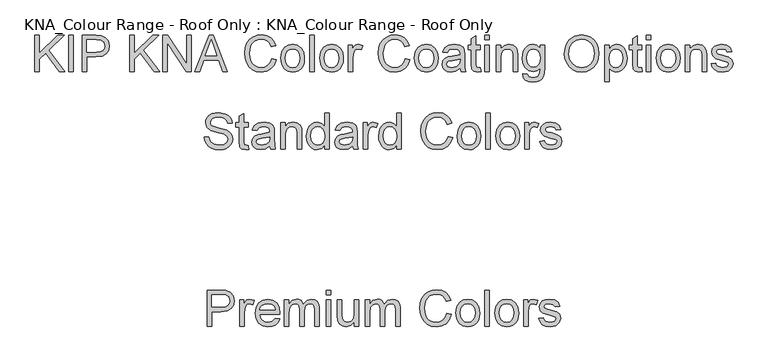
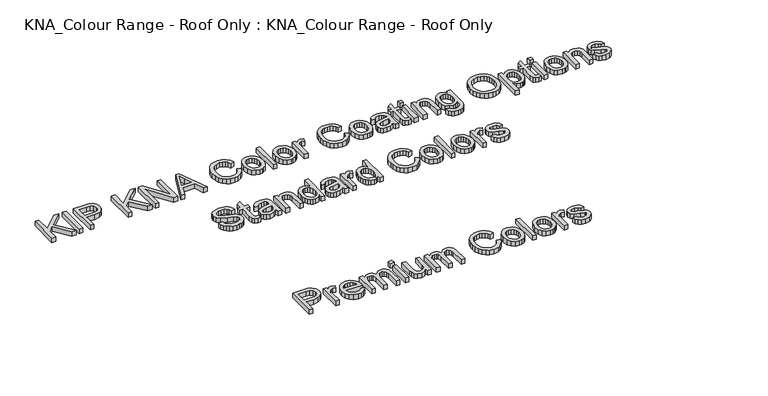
"""IFC4 building model written with IfcOpenShell, lengths in millimetres: proxy geometry, KNA_Colour Range - Roof Only : KNA_Colour Range - Roof Only."""

from ifc_helpers import new_model, si_unit, origin, origin_with_axes, place, context, project, spatial, polyline, outline, extrude, source, transform, mapped, element, save


def kna_colour_range_roof_only_kna_colour_range_roof_only_6b243e54(model_context):
    return source(origin(), model_context, "Body", "SweptSolid", [
        extrude(outline(polyline([(-733.4095456, 1513.480545), (-733.4095456, 1664.1650102), (-677.5650587, 1664.1650102), (-655.0506806, 1662.7302704), (-636.7485514, 1655.6853302), (-624.884357, 1641.1172032), (-620.3961967, 1620.5709938), (-623.4266246, 1602.8114905), (-632.5179084, 1588.0134372), (-649.5186551, 1578.0254411), (-676.2774717, 1574.696109), (-714.5739874, 1574.696109), (-714.5739874, 1513.480545), (-733.4095456, 1513.480545)]), holes=[polyline([(-714.5739874, 1593.5316672), (-675.1738257, 1593.5316672), (-658.4719832, 1595.2607125), (-647.4355233, 1600.4478487), (-641.2826969, 1608.7711788), (-639.2317548, 1619.9088062), (-644.0694031, 1635.5070028), (-656.779726, 1644.0418651), (-675.6152841, 1645.3294521), (-714.5739874, 1645.3294521), (-714.5739874, 1593.5316672)])]), origin_with_axes(), (0.0, 0.0, 1.0), 25.0),
        extrude(outline(polyline([(-596.851749, 1513.480545), (-596.851749, 1624.1394492), (-580.3706356, 1624.1394492), (-580.3706356, 1607.7687004), (-568.6719881, 1622.8518622), (-556.8997643, 1626.4938939), (-537.9906297, 1620.6813584), (-544.2814119, 1603.7955748), (-557.5251637, 1607.6583358), (-568.1753475, 1603.9427276), (-574.9627703, 1593.6420318), (-578.0161908, 1571.6426884), (-578.0161908, 1513.480545), (-596.851749, 1513.480545)])), origin_with_axes(), (0.0, 0.0, 1.0), 25.0),
        extrude(outline(polyline([(-448.7424577, 1546.4427718), (-430.2747816, 1544.088327), (-436.9288471, 1530.1731905), (-447.5468412, 1519.7713271), (-461.8896405, 1513.287407), (-479.7181217, 1511.1261002), (-501.8186326, 1514.855504), (-518.8239778, 1526.0437151), (-529.6672996, 1543.9641668), (-533.2817402, 1567.8902921), (-529.6305114, 1592.6211592), (-518.676825, 1611.1164265), (-501.901406, 1622.6495271), (-480.7849795, 1626.4938939), (-460.326142, 1622.6587241), (-443.9783859, 1611.1532147), (-433.2592242, 1592.6947356), (-429.6861704, 1568.0006567), (-429.796535, 1562.9238852), (-514.4461821, 1562.9238852), (-511.1858279, 1548.8248077), (-503.6120573, 1538.4597325), (-492.6813635, 1532.0861769), (-479.3502397, 1529.9616584), (-460.8825636, 1533.8979957), (-448.7424577, 1546.4427718)]), holes=[polyline([(-514.4461821, 1581.7594433), (-448.5217285, 1581.7594433), (-451.0693113, 1591.7106513), (-456.0633094, 1598.8291679), (-467.044587, 1605.4510438), (-480.8585559, 1607.6583358), (-493.5550833, 1605.8971007), (-504.0535157, 1600.6133956), (-511.3513748, 1592.3774374), (-514.4461821, 1581.7594433)])]), origin_with_axes(), (0.0, 0.0, 1.0), 25.0),
        extrude(outline(polyline([(-410.8506122, 1513.480545), (-410.8506122, 1624.1394492), (-392.0150541, 1624.1394492), (-392.0150541, 1605.9292904), (-379.0656078, 1620.8469053), (-360.6347199, 1626.4938939), (-350.1592801, 1625.0545556), (-341.7623735, 1620.7365407), (-331.3881013, 1604.6049152), (-316.6912155, 1621.0216492), (-298.1315689, 1626.4938939), (-283.9727106, 1624.2176241), (-273.5018693, 1617.3888145), (-267.0317447, 1605.8235243), (-264.8750365, 1589.3378124), (-264.8750365, 1513.480545), (-283.7105947, 1513.480545), (-283.7105947, 1581.2444085), (-285.4580342, 1596.9713638), (-291.7856045, 1604.7152798), (-302.5461528, 1607.6583358), (-312.7502797, 1605.7729405), (-321.0690113, 1600.1167549), (-326.6010368, 1590.3035026), (-328.4450453, 1575.9469078), (-328.4450453, 1513.480545), (-347.2806034, 1513.480545), (-347.2806034, 1583.3413359), (-351.6400051, 1601.5882828), (-357.3927598, 1606.1408225), (-365.9322206, 1607.6583358), (-379.8749482, 1603.6116338), (-389.1455745, 1591.7658336), (-392.0150541, 1569.2882437), (-392.0150541, 1513.480545), (-410.8506122, 1513.480545)])), origin_with_axes(), (0.0, 0.0, 1.0), 25.0),
        extrude(outline(polyline([(-236.6216993, 1513.480545), (-236.6216993, 1624.1394492), (-217.7861411, 1624.1394492), (-217.7861411, 1513.480545), (-236.6216993, 1513.480545)])), origin_with_axes(), (0.0, 0.0, 1.0), 25.0),
        extrude(outline(polyline([(-236.6216993, 1645.3294521), (-236.6216993, 1664.1650102), (-217.7861411, 1664.1650102), (-217.7861411, 1645.3294521), (-236.6216993, 1645.3294521)])), origin_with_axes(), (0.0, 0.0, 1.0), 25.0),
        extrude(outline(polyline([(-118.8994608, 1513.480545), (-118.8994608, 1532.5000442), (-133.6515288, 1516.4695862), (-152.8917572, 1511.1261002), (-170.6052753, 1514.8784966), (-182.8189575, 1524.2962757), (-188.4291579, 1538.1654269), (-189.5328039, 1555.6766098), (-189.5328039, 1624.1394492), (-170.6972458, 1624.1394492), (-170.6972458, 1564.5425659), (-169.5568116, 1545.3391258), (-162.1072012, 1534.0635426), (-148.0725031, 1529.9616584), (-132.3455478, 1534.1555131), (-121.9528814, 1545.5782491), (-118.8994608, 1566.5659169), (-118.8994608, 1624.1394492), (-100.0639027, 1624.1394492), (-100.0639027, 1513.480545), (-118.8994608, 1513.480545)])), origin_with_axes(), (0.0, 0.0, 1.0), 25.0),
        extrude(outline(polyline([(-74.1650102, 1513.480545), (-74.1650102, 1624.1394492), (-55.3294521, 1624.1394492), (-55.3294521, 1605.9292904), (-42.3800058, 1620.8469053), (-23.9491179, 1626.4938939), (-13.4736781, 1625.0545556), (-5.0767715, 1620.7365407), (5.2975007, 1604.6049152), (19.9943864, 1621.0216492), (38.5540331, 1626.4938939), (52.7128914, 1624.2176241), (63.1837327, 1617.3888145), (69.6538573, 1605.8235243), (71.8105655, 1589.3378124), (71.8105655, 1513.480545), (52.9750073, 1513.480545), (52.9750073, 1581.2444085), (51.2275678, 1596.9713638), (44.8999975, 1604.7152798), (34.1394492, 1607.6583358), (23.9353223, 1605.7729405), (15.6165907, 1600.1167549), (10.0845652, 1590.3035026), (8.2405567, 1575.9469078), (8.2405567, 1513.480545), (-10.5950015, 1513.480545), (-10.5950015, 1583.3413359), (-14.9544031, 1601.5882828), (-20.7071578, 1606.1408225), (-29.2466186, 1607.6583358), (-43.1893462, 1603.6116338), (-52.4599725, 1591.7658336), (-55.3294521, 1569.2882437), (-55.3294521, 1513.480545), (-74.1650102, 1513.480545)])), origin_with_axes(), (0.0, 0.0, 1.0), 25.0),
        extrude(outline(polyline([(267.2294813, 1567.0441635), (286.0650394, 1562.1881212), (277.3738273, 1540.2393616), (263.7346023, 1524.2043052), (245.8187492, 1514.3956515), (224.2976525, 1511.1261002), (202.4500605, 1513.6001067), (185.0998259, 1521.0221259), (171.8008917, 1533.1346406), (162.1072012, 1549.6801333), (156.1888996, 1569.1318938), (154.2161324, 1589.9632118), (156.446417, 1611.934964), (163.1372708, 1630.9084779), (173.9392058, 1646.2813467), (188.5027343, 1657.4511638), (205.774794, 1664.2523822), (224.7023227, 1666.519455), (245.3542982, 1663.5855961), (262.4286213, 1654.7840194), (275.3918631, 1640.6573507), (283.7105947, 1621.7482162), (264.8750365, 1617.2600558), (258.3451311, 1630.9958498), (249.4239927, 1640.4182274), (238.0012568, 1645.8674795), (223.9665587, 1647.6838968), (207.7889479, 1645.6697429), (194.4992108, 1639.6272811), (184.4146457, 1630.191108), (177.8525506, 1617.9958198), (173.0516905, 1590.0), (174.4726347, 1572.5991816), (178.7354674, 1557.552808), (186.0011368, 1545.4356948), (196.4305913, 1536.8226576), (208.9339806, 1531.6769082), (222.4214543, 1529.9616584), (238.1438111, 1532.2977091), (251.2450086, 1539.3058611), (261.1364358, 1550.912538), (267.2294813, 1567.0441635)])), origin_with_axes(), (0.0, 0.0, 1.0), 25.0),
        extrude(outline(polyline([(304.9005976, 1568.8099971), (308.9748907, 1595.4906388), (321.19777, 1614.2434235), (336.2993259, 1623.4312763), (354.380726, 1626.4938939), (374.1681788, 1622.7644902), (389.973309, 1611.576279), (400.3337857, 1593.8121772), (403.7872779, 1570.3551015), (402.2605676, 1551.3264053), (397.6804368, 1536.8410517), (390.1802426, 1525.9931314), (379.8933423, 1517.8767348), (367.6750616, 1512.8137589), (354.380726, 1511.1261002), (334.3541498, 1514.8417084), (318.5674137, 1525.9885328), (308.3173016, 1544.1251152), (304.9005976, 1568.8099971)]), holes=[polyline([(323.7361558, 1568.8467853), (325.9158566, 1551.8000533), (332.454959, 1539.655349), (342.2958024, 1532.385081), (354.380726, 1529.9616584), (366.4104672, 1532.3988766), (376.2329165, 1539.7105313), (382.7720189, 1552.016184), (384.9517198, 1569.4353965), (382.7582234, 1585.9854877), (376.1777342, 1597.9646452), (366.3414893, 1605.2349131), (354.380726, 1607.6583358), (342.2958024, 1605.2441102), (332.454959, 1598.0014334), (325.9158566, 1585.8843202), (323.7361558, 1568.8467853)])]), origin_with_axes(), (0.0, 0.0, 1.0), 25.0),
        extrude(outline(polyline([(424.9772808, 1513.480545), (424.9772808, 1664.1650102), (443.812839, 1664.1650102), (443.812839, 1513.480545), (424.9772808, 1513.480545)])), origin_with_axes(), (0.0, 0.0, 1.0), 25.0),
        extrude(outline(polyline([(467.3572867, 1568.8099971), (471.4315798, 1595.4906388), (483.6544591, 1614.2434235), (498.756015, 1623.4312763), (516.837415, 1626.4938939), (536.6248678, 1622.7644902), (552.4299981, 1611.576279), (562.7904747, 1593.8121772), (566.243967, 1570.3551015), (564.7172567, 1551.3264053), (560.1371259, 1536.8410517), (552.6369317, 1525.9931314), (542.3500314, 1517.8767348), (530.1317506, 1512.8137589), (516.837415, 1511.1261002), (496.8108389, 1514.8417084), (481.0241028, 1525.9885328), (470.7739907, 1544.1251152), (467.3572867, 1568.8099971)]), holes=[polyline([(486.1928448, 1568.8467853), (488.3725456, 1551.8000533), (494.9116481, 1539.655349), (504.7524915, 1532.385081), (516.837415, 1529.9616584), (528.8671563, 1532.3988766), (538.6896055, 1539.7105313), (545.228708, 1552.016184), (547.4084088, 1569.4353965), (545.2149124, 1585.9854877), (538.6344232, 1597.9646452), (528.7981784, 1605.2349131), (516.837415, 1607.6583358), (504.7524915, 1605.2441102), (494.9116481, 1598.0014334), (488.3725456, 1585.8843202), (486.1928448, 1568.8467853)])]), origin_with_axes(), (0.0, 0.0, 1.0), 25.0),
        extrude(outline(polyline([(587.4339699, 1513.480545), (587.4339699, 1624.1394492), (603.9150833, 1624.1394492), (603.9150833, 1607.7687004), (615.6137307, 1622.8518622), (627.3859546, 1626.4938939), (646.2950891, 1620.6813584), (640.004307, 1603.7955748), (626.7605552, 1607.6583358), (616.1103714, 1603.9427276), (609.3229486, 1593.6420318), (606.2695281, 1571.6426884), (606.2695281, 1513.480545), (587.4339699, 1513.480545)])), origin_with_axes(), (0.0, 0.0, 1.0), 25.0),
        extrude(outline(polyline([(651.0039787, 1546.4427718), (669.8395368, 1548.7972165), (672.8101839, 1540.7406008), (678.5583401, 1534.8177007), (698.5343324, 1529.9616584), (717.7377726, 1534.4130305), (723.9917665, 1544.8608792), (722.419071, 1549.6617392), (717.7009844, 1553.3221651), (698.3136032, 1558.6932422), (669.9499014, 1567.9086862), (657.5706723, 1578.6692345), (653.3584234, 1593.8627609), (656.7429378, 1607.8974591), (665.9767759, 1618.6212192), (677.9513348, 1624.1946315), (694.1565367, 1626.4938939), (717.075585, 1622.7966799), (731.643712, 1612.7902896), (738.1184351, 1595.8861119), (719.282877, 1593.5316672), (712.2011486, 1603.9243335), (695.6280647, 1607.6583358), (677.6018469, 1604.0898804), (672.1939816, 1595.7757473), (674.4380618, 1590.2943056), (681.4646079, 1586.1372391), (697.6882039, 1582.1273253), (725.3345358, 1573.2613692), (738.1736174, 1563.2181908), (742.8273247, 1546.847442), (737.364277, 1528.8212242), (721.6005335, 1515.7430193), (698.276815, 1511.1261002), (679.284907, 1513.3517863), (665.4249529, 1520.0288445), (656.1727207, 1531.0836985), (651.0039787, 1546.4427718)])), origin_with_axes(), (0.0, 0.0, 1.0), 25.0),
        extrude(outline(polyline([(-745.1817694, 2305.2783299), (-726.3462113, 2305.2783299), (-720.2761584, 2286.4243777), (-705.450514, 2274.505001), (-682.8625594, 2269.9616584), (-663.1808727, 2273.401355), (-650.4705498, 2282.8559223), (-646.2950891, 2295.4926689), (-649.4220861, 2307.2464986), (-662.2243795, 2315.799755), (-689.6499823, 2322.991848), (-719.1725124, 2332.2808684), (-735.1937733, 2346.2971724), (-740.4728799, 2365.0223659), (-738.8404035, 2376.0542273), (-733.9429745, 2386.3411276), (-725.9093514, 2395.0599308), (-714.868293, 2401.3875012), (-686.9460496, 2406.519455), (-657.147608, 2401.1483779), (-645.724872, 2394.5173049), (-637.2819802, 2385.3662403), (-631.9384943, 2374.2654011), (-629.8139757, 2361.7850044), (-648.6495339, 2361.7850044), (-652.1076247, 2373.0237993), (-659.3181118, 2381.1355973), (-670.5844979, 2386.046822), (-686.2102856, 2387.6838968), (-702.2039553, 2386.0652161), (-713.1760358, 2381.2091737), (-719.5220003, 2374.063066), (-721.6373217, 2365.5741889), (-720.1382026, 2358.3361107), (-715.6408452, 2352.5143781), (-684.8859104, 2341.992953), (-651.5558017, 2332.5383858), (-640.8182459, 2325.7049777), (-633.3272488, 2317.271283), (-628.9264604, 2307.329272), (-627.459531, 2295.9709154), (-629.1471896, 2284.35964), (-634.2101656, 2273.4381432), (-642.4415252, 2264.0387583), (-653.6343349, 2256.9938181), (-667.0942174, 2252.5930297), (-682.1267955, 2251.1261002), (-700.580676, 2252.7079928), (-715.7696039, 2257.4536706), (-727.868323, 2265.3815275), (-737.0515773, 2276.5099579), (-742.9468863, 2290.0664094), (-745.1817694, 2305.2783299)])), origin_with_axes(), (0.0, 0.0, 1.0), 25.0),
        extrude(outline(polyline([(-561.5350774, 2269.1891062), (-559.1806327, 2252.928722), (-573.2705131, 2251.1261002), (-589.0526507, 2254.2530972), (-596.9253254, 2262.4568657), (-599.2061937, 2283.8308096), (-599.2061937, 2345.303891), (-613.3328624, 2345.303891), (-613.3328624, 2364.1394492), (-599.2061937, 2364.1394492), (-599.2061937, 2391.031623), (-580.3706356, 2402.1048711), (-580.3706356, 2364.1394492), (-561.5350774, 2364.1394492), (-561.5350774, 2345.303891), (-580.3706356, 2345.303891), (-580.3706356, 2284.3826326), (-579.3773542, 2274.6705479), (-576.1583867, 2271.2308513), (-569.7388459, 2269.9616584), (-561.5350774, 2269.1891062)])), origin_with_axes(), (0.0, 0.0, 1.0), 25.0),
        extrude(outline(polyline([(-472.0661762, 2267.6072136), (-490.3315173, 2254.8417084), (-510.5098447, 2251.1261002), (-526.2505956, 2253.3609834), (-537.861871, 2260.0656327), (-545.0217744, 2270.2467669), (-547.4084088, 2282.9111046), (-543.8031653, 2297.8103254), (-534.3302039, 2308.6260561), (-521.1416344, 2314.8064736), (-504.844462, 2317.639165), (-472.1765408, 2324.1138881), (-472.0661762, 2328.3077428), (-473.3629602, 2336.7138464), (-477.2533123, 2342.2136822), (-485.9537215, 2346.2971724), (-498.0754333, 2347.6583358), (-517.1317206, 2344.0346981), (-526.2184059, 2331.1772224), (-545.0539641, 2333.5316672), (-536.9053779, 2351.9257669), (-520.4978409, 2362.7047094), (-495.6474121, 2366.4938939), (-472.8203343, 2363.1461678), (-459.9260704, 2354.7400642), (-454.150323, 2341.9561648), (-453.2306181, 2325.4750515), (-453.2306181, 2302.0409684), (-452.2741249, 2269.3178649), (-448.5217285, 2253.480545), (-467.3572867, 2253.480545), (-472.0661762, 2267.6072136)]), holes=[polyline([(-472.0661762, 2305.2783299), (-502.453229, 2299.5025826), (-518.6584309, 2296.449162), (-525.9976767, 2291.4827551), (-528.5728507, 2284.2354798), (-522.9626502, 2274.0451485), (-506.499931, 2269.9616584), (-487.4436436, 2274.4682128), (-475.156385, 2285.375914), (-472.1765408, 2299.944041), (-472.0661762, 2305.2783299)])]), origin_with_axes(), (0.0, 0.0, 1.0), 25.0),
        extrude(outline(polyline([(-427.3317256, 2253.480545), (-427.3317256, 2364.1394492), (-408.4961674, 2364.1394492), (-408.4961674, 2348.6884054), (-394.0935873, 2362.0425218), (-374.4302947, 2366.4938939), (-356.6432002, 2362.9070445), (-344.5030944, 2353.4892654), (-338.8561058, 2339.6385083), (-337.8628244, 2321.4283495), (-337.8628244, 2253.480545), (-356.6983825, 2253.480545), (-356.6983825, 2318.8899637), (-358.8688863, 2335.5550181), (-366.5392259, 2344.3657919), (-379.470278, 2347.6583358), (-390.5021394, 2345.8097287), (-399.9061229, 2340.2639077), (-406.3486563, 2329.5493446), (-408.4961674, 2312.1945114), (-408.4961674, 2253.480545), (-427.3317256, 2253.480545)])), origin_with_axes(), (0.0, 0.0, 1.0), 25.0),
        extrude(outline(polyline([(-243.6850336, 2253.480545), (-243.6850336, 2271.2492454), (-256.1470362, 2256.1568865), (-273.3731106, 2251.1261002), (-285.5500047, 2252.9471161), (-296.6968291, 2258.4101637), (-306.1330023, 2267.1335655), (-313.1779425, 2278.735644), (-317.5649353, 2292.7473495), (-319.0272662, 2308.6996325), (-313.637795, 2338.6820151), (-306.9055545, 2350.5738006), (-297.4877754, 2359.320195), (-286.0972291, 2364.7004692), (-273.446687, 2366.4938939), (-256.0826568, 2361.3619401), (-243.6850336, 2348.0262178), (-243.6850336, 2404.1650102), (-224.8494755, 2404.1650102), (-224.8494755, 2253.480545), (-243.6850336, 2253.480545)]), holes=[polyline([(-300.1917081, 2308.7732089), (-298.0671895, 2291.735674), (-291.693634, 2279.6185608), (-282.4322047, 2272.375884), (-271.6440652, 2269.9616584), (-260.8605243, 2272.2655194), (-251.8336198, 2279.1771024), (-245.7221802, 2290.825166), (-243.6850336, 2307.3384691), (-245.7589684, 2325.392278), (-251.9807726, 2337.9094629), (-261.2376033, 2345.2211176), (-272.4166174, 2347.6583358), (-283.3151215, 2345.3176866), (-292.245457, 2338.295739), (-298.2051453, 2326.2338081), (-300.1917081, 2308.7732089)])]), origin_with_axes(), (0.0, 0.0, 1.0), 25.0),
        extrude(outline(polyline([(-125.9627951, 2267.6072136), (-144.2281362, 2254.8417084), (-164.4064636, 2251.1261002), (-180.1472145, 2253.3609834), (-191.75849, 2260.0656327), (-198.9183933, 2270.2467669), (-201.3050278, 2282.9111046), (-197.6997842, 2297.8103254), (-188.2268228, 2308.6260561), (-175.0382533, 2314.8064736), (-158.7410809, 2317.639165), (-126.0731597, 2324.1138881), (-125.9627951, 2328.3077428), (-127.2595792, 2336.7138464), (-131.1499313, 2342.2136822), (-139.8503405, 2346.2971724), (-151.9720522, 2347.6583358), (-171.0283396, 2344.0346981), (-180.1150248, 2331.1772224), (-198.950583, 2333.5316672), (-190.8019968, 2351.9257669), (-174.3944598, 2362.7047094), (-149.544031, 2366.4938939), (-126.7169532, 2363.1461678), (-113.8226893, 2354.7400642), (-108.046942, 2341.9561648), (-107.127237, 2325.4750515), (-107.127237, 2302.0409684), (-106.1707438, 2269.3178649), (-102.4183475, 2253.480545), (-121.2539056, 2253.480545), (-125.9627951, 2267.6072136)]), holes=[polyline([(-125.9627951, 2305.2783299), (-156.349848, 2299.5025826), (-172.5550498, 2296.449162), (-179.8942956, 2291.4827551), (-182.4694696, 2284.2354798), (-176.8592692, 2274.0451485), (-160.3965499, 2269.9616584), (-141.3402625, 2274.4682128), (-129.0530039, 2285.375914), (-126.0731597, 2299.944041), (-125.9627951, 2305.2783299)])]), origin_with_axes(), (0.0, 0.0, 1.0), 25.0),
        extrude(outline(polyline([(-81.2283445, 2253.480545), (-81.2283445, 2364.1394492), (-64.7472312, 2364.1394492), (-64.7472312, 2347.7687004), (-53.0485837, 2362.8518622), (-41.2763599, 2366.4938939), (-22.3672253, 2360.6813584), (-28.6580074, 2343.7955748), (-41.9017593, 2347.6583358), (-52.551943, 2343.9427276), (-59.3393658, 2333.6420318), (-62.3927864, 2311.6426884), (-62.3927864, 2253.480545), (-81.2283445, 2253.480545)])), origin_with_axes(), (0.0, 0.0, 1.0), 25.0),
        extrude(outline(polyline([(57.6838968, 2253.480545), (57.6838968, 2271.2492454), (45.2218943, 2256.1568865), (27.9958198, 2251.1261002), (15.8189258, 2252.9471161), (4.6721013, 2258.4101637), (-4.7640718, 2267.1335655), (-11.809012, 2278.735644), (-16.1960048, 2292.7473495), (-17.6583358, 2308.6996325), (-12.2688645, 2338.6820151), (-5.536624, 2350.5738006), (3.881155, 2359.320195), (15.2717013, 2364.7004692), (27.9222434, 2366.4938939), (45.2862736, 2361.3619401), (57.6838968, 2348.0262178), (57.6838968, 2404.1650102), (76.519455, 2404.1650102), (76.519455, 2253.480545), (57.6838968, 2253.480545)]), holes=[polyline([(1.1772224, 2308.7732089), (3.3017409, 2291.735674), (9.6752965, 2279.6185608), (18.9367257, 2272.375884), (29.7248652, 2269.9616584), (40.5084062, 2272.2655194), (49.5353107, 2279.1771024), (55.6467503, 2290.825166), (57.6838968, 2307.3384691), (55.6099621, 2325.392278), (49.3881579, 2337.9094629), (40.1313271, 2345.2211176), (28.952313, 2347.6583358), (18.0538089, 2345.3176866), (9.1234735, 2338.295739), (3.1637852, 2326.2338081), (1.1772224, 2308.7732089)])]), origin_with_axes(), (0.0, 0.0, 1.0), 25.0),
        extrude(outline(polyline([(271.9383708, 2307.0441635), (290.773929, 2302.1881212), (282.0827169, 2280.2393616), (268.4434919, 2264.2043052), (250.5276387, 2254.3956515), (229.006542, 2251.1261002), (207.15895, 2253.6001067), (189.8087154, 2261.0221259), (176.5097813, 2273.1346406), (166.8160907, 2289.6801333), (160.8977891, 2309.1318938), (158.9250219, 2329.9632118), (161.1553065, 2351.934964), (167.8461603, 2370.9084779), (178.6480954, 2386.2813467), (193.2116239, 2397.4511638), (210.4836835, 2404.2523822), (229.4112122, 2406.519455), (250.0631877, 2403.5855961), (267.1375108, 2394.7840194), (280.1007526, 2380.6573507), (288.4194842, 2361.7482162), (269.5839261, 2357.2600558), (263.0540207, 2370.9958498), (254.1328823, 2380.4182274), (242.7101463, 2385.8674795), (228.6754482, 2387.6838968), (212.4978375, 2385.6697429), (199.2081004, 2379.6272811), (189.1235352, 2370.191108), (182.5614401, 2357.9958198), (177.7605801, 2330.0), (179.1815243, 2312.5991816), (183.4443569, 2297.552808), (190.7100263, 2285.4356948), (201.1394809, 2276.8226576), (213.6428702, 2271.6769082), (227.1303438, 2269.9616584), (242.8527006, 2272.2977091), (255.9538981, 2279.3058611), (265.8453253, 2290.912538), (271.9383708, 2307.0441635)])), origin_with_axes(), (0.0, 0.0, 1.0), 25.0),
        extrude(outline(polyline([(309.6094871, 2308.8099971), (313.6837802, 2335.4906388), (325.9066595, 2354.2434235), (341.0082154, 2363.4312763), (359.0896155, 2366.4938939), (378.8770683, 2362.7644902), (394.6821985, 2351.576279), (405.0426752, 2333.8121772), (408.4961674, 2310.3551015), (406.9694572, 2291.3264053), (402.3893263, 2276.8410517), (394.8891321, 2265.9931314), (384.6022319, 2257.8767348), (372.3839511, 2252.8137589), (359.0896155, 2251.1261002), (339.0630394, 2254.8417084), (323.2763033, 2265.9885328), (313.0261912, 2284.1251152), (309.6094871, 2308.8099971)]), holes=[polyline([(328.4450453, 2308.8467853), (330.6247461, 2291.8000533), (337.1638486, 2279.655349), (347.004692, 2272.385081), (359.0896155, 2269.9616584), (371.1193567, 2272.3988766), (380.941806, 2279.7105313), (387.4809085, 2292.016184), (389.6606093, 2309.4353965), (387.4671129, 2325.9854877), (380.8866237, 2337.9646452), (371.0503789, 2345.2349131), (359.0896155, 2347.6583358), (347.004692, 2345.2441102), (337.1638486, 2338.0014334), (330.6247461, 2325.8843202), (328.4450453, 2308.8467853)])]), origin_with_axes(), (0.0, 0.0, 1.0), 25.0),
        extrude(outline(polyline([(429.6861704, 2253.480545), (429.6861704, 2404.1650102), (448.5217285, 2404.1650102), (448.5217285, 2253.480545), (429.6861704, 2253.480545)])), origin_with_axes(), (0.0, 0.0, 1.0), 25.0),
        extrude(outline(polyline([(472.0661762, 2308.8099971), (476.1404693, 2335.4906388), (488.3633486, 2354.2434235), (503.4649045, 2363.4312763), (521.5463046, 2366.4938939), (541.3337574, 2362.7644902), (557.1388876, 2351.576279), (567.4993643, 2333.8121772), (570.9528565, 2310.3551015), (569.4261462, 2291.3264053), (564.8460154, 2276.8410517), (557.3458212, 2265.9931314), (547.0589209, 2257.8767348), (534.8406402, 2252.8137589), (521.5463046, 2251.1261002), (501.5197284, 2254.8417084), (485.7329923, 2265.9885328), (475.4828802, 2284.1251152), (472.0661762, 2308.8099971)]), holes=[polyline([(490.9017344, 2308.8467853), (493.0814352, 2291.8000533), (499.6205376, 2279.655349), (509.461381, 2272.385081), (521.5463046, 2269.9616584), (533.5760458, 2272.3988766), (543.3984951, 2279.7105313), (549.9375975, 2292.016184), (552.1172984, 2309.4353965), (549.923802, 2325.9854877), (543.3433128, 2337.9646452), (533.5070679, 2345.2349131), (521.5463046, 2347.6583358), (509.461381, 2345.2441102), (499.6205376, 2338.0014334), (493.0814352, 2325.8843202), (490.9017344, 2308.8467853)])]), origin_with_axes(), (0.0, 0.0, 1.0), 25.0),
        extrude(outline(polyline([(592.1428594, 2253.480545), (592.1428594, 2364.1394492), (608.6239728, 2364.1394492), (608.6239728, 2347.7687004), (620.3226203, 2362.8518622), (632.0948441, 2366.4938939), (651.0039787, 2360.6813584), (644.7131965, 2343.7955748), (631.4694447, 2347.6583358), (620.819261, 2343.9427276), (614.0318381, 2333.6420318), (610.9784176, 2311.6426884), (610.9784176, 2253.480545), (592.1428594, 2253.480545)])), origin_with_axes(), (0.0, 0.0, 1.0), 25.0),
        extrude(outline(polyline([(655.7128682, 2286.4427718), (674.5484264, 2288.7972165), (677.5190735, 2280.7406008), (683.2672296, 2274.8177007), (703.243222, 2269.9616584), (722.4466621, 2274.4130305), (728.700656, 2284.8608792), (727.1279605, 2289.6617392), (722.4098739, 2293.3221651), (703.0224928, 2298.6932422), (674.658791, 2307.9086862), (662.2795618, 2318.6692345), (658.067313, 2333.8627609), (661.4518273, 2347.8974591), (670.6856654, 2358.6212192), (682.6602243, 2364.1946315), (698.8654262, 2366.4938939), (721.7844745, 2362.7966799), (736.3526015, 2352.7902896), (742.8273247, 2335.8861119), (723.9917665, 2333.5316672), (716.9100381, 2343.9243335), (700.3369542, 2347.6583358), (682.3107365, 2344.0898804), (676.9028711, 2335.7757473), (679.1469513, 2330.2943056), (686.1734974, 2326.1372391), (702.3970934, 2322.1273253), (730.0434253, 2313.2613692), (742.882507, 2303.2181908), (747.5362142, 2286.847442), (742.0731666, 2268.8212242), (726.3094231, 2255.7430193), (702.9857046, 2251.1261002), (683.9937966, 2253.3517863), (670.1338424, 2260.0288445), (660.8816102, 2271.0836985), (655.7128682, 2286.4427718)])), origin_with_axes(), (0.0, 0.0, 1.0), 25.0),
        extrude(outline(polyline([(-1452.6924226, 2578.480545), (-1452.6924226, 2729.1650102), (-1433.8568644, 2729.1650102), (-1433.8568644, 2655.4046702), (-1356.6016454, 2729.1650102), (-1330.2612946, 2729.1650102), (-1395.1188903, 2667.2136822), (-1327.9068498, 2578.480545), (-1350.9362627, 2578.480545), (-1408.4730067, 2654.4849652), (-1433.8568644, 2630.2783299), (-1433.8568644, 2578.480545), (-1452.6924226, 2578.480545)])), origin_with_axes(), (0.0, 0.0, 1.0), 25.0),
        extrude(outline(polyline([(-1311.4257364, 2578.480545), (-1311.4257364, 2729.1650102), (-1292.5901783, 2729.1650102), (-1292.5901783, 2578.480545), (-1311.4257364, 2578.480545)])), origin_with_axes(), (0.0, 0.0, 1.0), 25.0),
        extrude(outline(polyline([(-1254.9190619, 2578.480545), (-1254.9190619, 2729.1650102), (-1199.0745751, 2729.1650102), (-1176.560197, 2727.7302704), (-1158.2580677, 2720.6853302), (-1146.3938734, 2706.1172032), (-1141.905713, 2685.5709938), (-1144.936141, 2667.8114905), (-1154.0274248, 2653.0134372), (-1171.0281715, 2643.0254411), (-1197.7869881, 2639.696109), (-1236.0835038, 2639.696109), (-1236.0835038, 2578.480545), (-1254.9190619, 2578.480545)]), holes=[polyline([(-1236.0835038, 2658.5316672), (-1196.6833421, 2658.5316672), (-1179.9814995, 2660.2607125), (-1168.9450397, 2665.4478487), (-1162.7922133, 2673.7711788), (-1160.7412712, 2684.9088062), (-1165.5789194, 2700.5070028), (-1178.2892424, 2709.0418651), (-1197.1248005, 2710.3294521), (-1236.0835038, 2710.3294521), (-1236.0835038, 2658.5316672)])]), origin_with_axes(), (0.0, 0.0, 1.0), 25.0),
        extrude(outline(polyline([(-1057.1457013, 2578.480545), (-1057.1457013, 2729.1650102), (-1038.3101432, 2729.1650102), (-1038.3101432, 2655.4046702), (-961.0549242, 2729.1650102), (-934.7145733, 2729.1650102), (-999.5721691, 2667.2136822), (-932.3601286, 2578.480545), (-955.3895415, 2578.480545), (-1012.9262855, 2654.4849652), (-1038.3101432, 2630.2783299), (-1038.3101432, 2578.480545), (-1057.1457013, 2578.480545)])), origin_with_axes(), (0.0, 0.0, 1.0), 25.0),
        extrude(outline(polyline([(-918.23346, 2578.480545), (-918.23346, 2729.1650102), (-898.0735266, 2729.1650102), (-819.3467797, 2609.7873028), (-819.3467797, 2729.1650102), (-800.5112215, 2729.1650102), (-800.5112215, 2578.480545), (-820.6711548, 2578.480545), (-899.3979018, 2697.8950406), (-899.3979018, 2578.480545), (-918.23346, 2578.480545)])), origin_with_axes(), (0.0, 0.0, 1.0), 25.0),
        extrude(outline(polyline([(-785.0969659, 2578.480545), (-724.9482597, 2729.1650102), (-708.9086047, 2729.1650102), (-648.7598985, 2578.480545), (-668.6623144, 2578.480545), (-685.91598, 2625.5694404), (-747.9776726, 2625.5694404), (-765.19455, 2578.480545), (-785.0969659, 2578.480545)]), holes=[polyline([(-741.0614911, 2644.4049985), (-692.7953733, 2644.4049985), (-706.3702189, 2681.4507155), (-716.9284322, 2710.3294521), (-726.3094231, 2684.688077), (-741.0614911, 2644.4049985)])]), origin_with_axes(), (0.0, 0.0, 1.0), 25.0),
        extrude(outline(polyline([(-463.8256195, 2632.0441635), (-444.9900614, 2627.1881212), (-453.6812735, 2605.2393616), (-467.3204985, 2589.2043052), (-485.2363516, 2579.3956515), (-506.7574484, 2576.1261002), (-528.6050403, 2578.6001067), (-545.9552749, 2586.0221259), (-559.2542091, 2598.1346406), (-568.9478996, 2614.6801333), (-574.8662012, 2634.1318938), (-576.8389684, 2654.9632118), (-574.6086838, 2676.934964), (-567.9178301, 2695.9084779), (-557.115895, 2711.2813467), (-542.5523665, 2722.4511638), (-525.2803068, 2729.2523822), (-506.3527782, 2731.519455), (-485.7008027, 2728.5855961), (-468.6264796, 2719.7840194), (-455.6632378, 2705.6573507), (-447.3445061, 2686.7482162), (-466.1800643, 2682.2600558), (-472.7099697, 2695.9958498), (-481.6311081, 2705.4182274), (-493.053844, 2710.8674795), (-507.0885422, 2712.6838968), (-523.2661529, 2710.6697429), (-536.55589, 2704.6272811), (-546.6404552, 2695.191108), (-553.2025502, 2682.9958198), (-558.0034103, 2655.0), (-556.5824661, 2637.5991816), (-552.3196335, 2622.552808), (-545.0539641, 2610.4356948), (-534.6245095, 2601.8226576), (-522.1211202, 2596.6769082), (-508.6336465, 2594.9616584), (-492.9112898, 2597.2977091), (-479.8100922, 2604.3058611), (-469.9186651, 2615.912538), (-463.8256195, 2632.0441635)])), origin_with_axes(), (0.0, 0.0, 1.0), 25.0),
        extrude(outline(polyline([(-426.1545032, 2633.8099971), (-422.0802101, 2660.4906388), (-409.8573308, 2679.2434235), (-394.7557749, 2688.4312763), (-376.6743749, 2691.4938939), (-356.886922, 2687.7644902), (-341.0817918, 2676.576279), (-330.7213151, 2658.8121772), (-327.2678229, 2635.3551015), (-328.7945332, 2616.3264053), (-333.374664, 2601.8410517), (-340.8748582, 2590.9931314), (-351.1617585, 2582.8767348), (-363.3800393, 2577.8137589), (-376.6743749, 2576.1261002), (-396.700951, 2579.8417084), (-412.4876871, 2590.9885328), (-422.7377992, 2609.1251152), (-426.1545032, 2633.8099971)]), holes=[polyline([(-407.3189451, 2633.8467853), (-405.1392442, 2616.8000533), (-398.6001418, 2604.655349), (-388.7592984, 2597.385081), (-376.6743749, 2594.9616584), (-364.6446336, 2597.3988766), (-354.8221843, 2604.7105313), (-348.2830819, 2617.016184), (-346.1033811, 2634.4353965), (-348.2968775, 2650.9854877), (-354.8773666, 2662.9646452), (-364.7136115, 2670.2349131), (-376.6743749, 2672.6583358), (-388.7592984, 2670.2441102), (-398.6001418, 2663.0014334), (-405.1392442, 2650.8843202), (-407.3189451, 2633.8467853)])]), origin_with_axes(), (0.0, 0.0, 1.0), 25.0),
        extrude(outline(polyline([(-306.07782, 2578.480545), (-306.07782, 2729.1650102), (-287.2422618, 2729.1650102), (-287.2422618, 2578.480545), (-306.07782, 2578.480545)])), origin_with_axes(), (0.0, 0.0, 1.0), 25.0),
        extrude(outline(polyline([(-263.6978141, 2633.8099971), (-259.623521, 2660.4906388), (-247.4006418, 2679.2434235), (-232.2990859, 2688.4312763), (-214.2176858, 2691.4938939), (-194.430233, 2687.7644902), (-178.6251028, 2676.576279), (-168.2646261, 2658.8121772), (-164.8111338, 2635.3551015), (-166.3378441, 2616.3264053), (-170.917975, 2601.8410517), (-178.4181691, 2590.9931314), (-188.7050694, 2582.8767348), (-200.9233502, 2577.8137589), (-214.2176858, 2576.1261002), (-234.2442619, 2579.8417084), (-250.030998, 2590.9885328), (-260.2811101, 2609.1251152), (-263.6978141, 2633.8099971)]), holes=[polyline([(-244.862256, 2633.8467853), (-242.6825552, 2616.8000533), (-236.1434527, 2604.655349), (-226.3026093, 2597.385081), (-214.2176858, 2594.9616584), (-202.1879445, 2597.3988766), (-192.3654953, 2604.7105313), (-185.8263928, 2617.016184), (-183.646692, 2634.4353965), (-185.8401884, 2650.9854877), (-192.4206776, 2662.9646452), (-202.2569224, 2670.2349131), (-214.2176858, 2672.6583358), (-226.3026093, 2670.2441102), (-236.1434527, 2663.0014334), (-242.6825552, 2650.8843202), (-244.862256, 2633.8467853)])]), origin_with_axes(), (0.0, 0.0, 1.0), 25.0),
        extrude(outline(polyline([(-143.6211309, 2578.480545), (-143.6211309, 2689.1394492), (-127.1400175, 2689.1394492), (-127.1400175, 2672.7687004), (-115.4413701, 2687.8518622), (-103.6691462, 2691.4938939), (-84.7600117, 2685.6813584), (-91.0507938, 2668.7955748), (-104.2945456, 2672.6583358), (-114.9447294, 2668.9427276), (-121.7321522, 2658.6420318), (-124.7855728, 2636.6426884), (-124.7855728, 2578.480545), (-143.6211309, 2578.480545)])), origin_with_axes(), (0.0, 0.0, 1.0), 25.0),
        extrude(outline(polyline([(94.1777908, 2632.0441635), (113.0133489, 2627.1881212), (104.3221368, 2605.2393616), (90.6829118, 2589.2043052), (72.7670586, 2579.3956515), (51.2459619, 2576.1261002), (29.3983699, 2578.6001067), (12.0481353, 2586.0221259), (-1.2507988, 2598.1346406), (-10.9444894, 2614.6801333), (-16.862791, 2634.1318938), (-18.8355582, 2654.9632118), (-16.6052736, 2676.934964), (-9.9144198, 2695.9084779), (0.8875153, 2711.2813467), (15.4510438, 2722.4511638), (32.7231035, 2729.2523822), (51.6506321, 2731.519455), (72.3026076, 2728.5855961), (89.3769307, 2719.7840194), (102.3401725, 2705.6573507), (110.6589041, 2686.7482162), (91.823346, 2682.2600558), (85.2934406, 2695.9958498), (76.3723022, 2705.4182274), (64.9495662, 2710.8674795), (50.9148681, 2712.6838968), (34.7372574, 2710.6697429), (21.4475203, 2704.6272811), (11.3629551, 2695.191108), (4.80086, 2682.9958198), (0.0, 2655.0), (1.4209442, 2637.5991816), (5.6837768, 2622.552808), (12.9494462, 2610.4356948), (23.3789008, 2601.8226576), (35.8822901, 2596.6769082), (49.3697638, 2594.9616584), (65.0921205, 2597.2977091), (78.1933181, 2604.3058611), (88.0847452, 2615.912538), (94.1777908, 2632.0441635)])), origin_with_axes(), (0.0, 0.0, 1.0), 25.0),
        extrude(outline(polyline([(131.8489071, 2633.8099971), (135.9232002, 2660.4906388), (148.1460795, 2679.2434235), (163.2476354, 2688.4312763), (181.3290354, 2691.4938939), (201.1164882, 2687.7644902), (216.9216185, 2676.576279), (227.2820951, 2658.8121772), (230.7355874, 2635.3551015), (229.2088771, 2616.3264053), (224.6287463, 2601.8410517), (217.1285521, 2590.9931314), (206.8416518, 2582.8767348), (194.623371, 2577.8137589), (181.3290354, 2576.1261002), (161.3024593, 2579.8417084), (145.5157232, 2590.9885328), (135.2656111, 2609.1251152), (131.8489071, 2633.8099971)]), holes=[polyline([(150.6844652, 2633.8467853), (152.864166, 2616.8000533), (159.4032685, 2604.655349), (169.2441119, 2597.385081), (181.3290354, 2594.9616584), (193.3587767, 2597.3988766), (203.1812259, 2604.7105313), (209.7203284, 2617.016184), (211.9000292, 2634.4353965), (209.7065328, 2650.9854877), (203.1260436, 2662.9646452), (193.2897988, 2670.2349131), (181.3290354, 2672.6583358), (169.2441119, 2670.2441102), (159.4032685, 2663.0014334), (152.864166, 2650.8843202), (150.6844652, 2633.8467853)])]), origin_with_axes(), (0.0, 0.0, 1.0), 25.0),
        extrude(outline(polyline([(322.5589334, 2592.6072136), (304.2935923, 2579.8417084), (284.1152649, 2576.1261002), (268.374514, 2578.3609834), (256.7632385, 2585.0656327), (249.6033352, 2595.2467669), (247.2167008, 2607.9111046), (250.8219443, 2622.8103254), (260.2949057, 2633.6260561), (273.4834752, 2639.8064736), (289.7806476, 2642.639165), (322.4485688, 2649.1138881), (322.5589334, 2653.3077428), (321.2621493, 2661.7138464), (317.3717972, 2667.2136822), (308.6713881, 2671.2971724), (296.5496763, 2672.6583358), (277.493389, 2669.0346981), (268.4067037, 2656.1772224), (249.5711455, 2658.5316672), (257.7197317, 2676.9257669), (274.1272687, 2687.7047094), (298.9776975, 2691.4938939), (321.8047753, 2688.1461678), (334.6990392, 2679.7400642), (340.4747865, 2666.9561648), (341.3944915, 2650.4750515), (341.3944915, 2627.0409684), (342.3509847, 2594.3178649), (346.1033811, 2578.480545), (327.2678229, 2578.480545), (322.5589334, 2592.6072136)]), holes=[polyline([(322.5589334, 2630.2783299), (292.1718806, 2624.5025826), (275.9666787, 2621.449162), (268.6274329, 2616.4827551), (266.0522589, 2609.2354798), (271.6624593, 2599.0451485), (288.1251786, 2594.9616584), (307.181466, 2599.4682128), (319.4687246, 2610.375914), (322.4485688, 2624.944041), (322.5589334, 2630.2783299)])]), origin_with_axes(), (0.0, 0.0, 1.0), 25.0),
        extrude(outline(polyline([(407.3189451, 2594.1891062), (409.6733898, 2577.928722), (395.5835094, 2576.1261002), (379.8013718, 2579.2530972), (371.9286971, 2587.4568657), (369.6478288, 2608.8308096), (369.6478288, 2670.303891), (355.5211601, 2670.303891), (355.5211601, 2689.1394492), (369.6478288, 2689.1394492), (369.6478288, 2716.031623), (388.4833869, 2727.1048711), (388.4833869, 2689.1394492), (407.3189451, 2689.1394492), (407.3189451, 2670.303891), (388.4833869, 2670.303891), (388.4833869, 2609.3826326), (389.4766683, 2599.6705479), (392.6956358, 2596.2308513), (399.1151766, 2594.9616584), (407.3189451, 2594.1891062)])), origin_with_axes(), (0.0, 0.0, 1.0), 25.0),
        extrude(outline(polyline([(426.1545032, 2710.3294521), (426.1545032, 2729.1650102), (444.9900614, 2729.1650102), (444.9900614, 2710.3294521), (426.1545032, 2710.3294521)])), origin_with_axes(), (0.0, 0.0, 1.0), 25.0),
        extrude(outline(polyline([(426.1545032, 2578.480545), (426.1545032, 2689.1394492), (444.9900614, 2689.1394492), (444.9900614, 2578.480545), (426.1545032, 2578.480545)])), origin_with_axes(), (0.0, 0.0, 1.0), 25.0),
        extrude(outline(polyline([(473.2433986, 2578.480545), (473.2433986, 2689.1394492), (492.0789567, 2689.1394492), (492.0789567, 2673.6884054), (506.4815369, 2687.0425218), (526.1448295, 2691.4938939), (543.931924, 2687.9070445), (556.0720298, 2678.4892654), (561.7190184, 2664.6385083), (562.7122998, 2646.4283495), (562.7122998, 2578.480545), (543.8767417, 2578.480545), (543.8767417, 2643.8899637), (541.7062379, 2660.5550181), (534.0358983, 2669.3657919), (521.1048462, 2672.6583358), (510.0729848, 2670.8097287), (500.6690013, 2665.2639077), (494.2264679, 2654.5493446), (492.0789567, 2637.1945114), (492.0789567, 2578.480545), (473.2433986, 2578.480545)])), origin_with_axes(), (0.0, 0.0, 1.0), 25.0),
        extrude(outline(polyline([(583.9023027, 2569.0627659), (602.7378609, 2566.7083212), (608.844702, 2556.7755073), (627.1284372, 2552.5816525), (646.4054537, 2557.3273303), (655.6025036, 2570.6446585), (656.8900906, 2592.6072136), (643.6279447, 2582.0122122), (627.459531, 2578.480545), (608.0399602, 2582.5916263), (593.5592051, 2594.9248702), (584.5506948, 2613.0062703), (581.547858, 2634.3618201), (586.9373292, 2663.5532564), (593.531614, 2675.4036552), (602.5355258, 2684.2098304), (613.6409635, 2689.672878), (626.539826, 2691.4938939), (643.3428361, 2687.3736156), (656.8900906, 2675.0127805), (656.8900906, 2689.1394492), (675.7256487, 2689.1394492), (675.7256487, 2593.600495), (674.4380618, 2571.5413709), (670.5753008, 2557.0146306), (663.9212352, 2547.3807208), (654.2597343, 2540.0000883), (641.8023303, 2535.3095929), (626.7605552, 2533.7460944), (609.2355766, 2535.9487878), (595.4354033, 2542.5568682), (586.5832428, 2553.5887295), (583.9023027, 2569.0627659)]), holes=[polyline([(600.3834161, 2635.6494071), (602.3929715, 2618.3727489), (608.4216377, 2606.4947589), (617.4853304, 2599.6107671), (628.5999652, 2597.3161032), (639.6318265, 2599.5969715), (648.7415044, 2606.4395766), (654.852944, 2618.1658152), (656.8900906, 2635.0975841), (654.7931632, 2651.4269461), (648.5023811, 2663.1853744), (639.259346, 2670.2900954), (628.3056596, 2672.6583358), (617.5497097, 2670.3268836), (608.5320023, 2663.3325272), (602.4205627, 2651.7488429), (600.3834161, 2635.6494071)])]), origin_with_axes(), (0.0, 0.0, 1.0), 25.0),
        extrude(outline(polyline([(758.1312157, 2651.8362148), (763.1528049, 2685.1571266), (769.4297914, 2698.7756582), (778.2175726, 2710.3662403), (801.2193943, 2726.2311513), (830.0521457, 2731.519455), (849.8166059, 2729.0362515), (867.539321, 2721.5866411), (882.2546008, 2709.6948556), (892.9967551, 2693.8851269), (899.5634487, 2674.92081), (901.7523466, 2653.5652602), (899.4484856, 2631.9246019), (892.5369026, 2612.6935706), (881.3992752, 2596.8562507), (866.4172809, 2585.3967265), (848.8463171, 2578.4437568), (829.9417811, 2576.1261002), (809.8738183, 2578.6874786), (792.0499356, 2586.3716138), (777.371444, 2598.4841285), (766.7396543, 2614.3306454), (760.2833253, 2632.5637968), (758.1312157, 2651.8362148)]), holes=[polyline([(776.9667738, 2651.6522738), (780.7329657, 2628.080235), (792.0315415, 2610.1183966), (809.0138941, 2598.7508429), (829.8314165, 2594.9616584), (850.9524416, 2598.7876311), (867.9623853, 2610.2655494), (879.1781876, 2628.7792108), (882.9167884, 2653.712413), (881.3165017, 2670.3866644), (876.5156417, 2684.7984416), (868.6383685, 2696.584461), (857.8088423, 2705.3814392), (844.7444329, 2710.8582824), (830.1625103, 2712.6838968), (809.9014094, 2709.1660253), (792.675335, 2698.6124105), (780.8939141, 2679.8366332), (776.9667738, 2651.6522738)])]), origin_with_axes(), (0.0, 0.0, 1.0), 25.0),
        extrude(outline(polyline([(925.2967943, 2536.1005392), (925.2967943, 2689.1394492), (944.1323524, 2689.1394492), (944.1323524, 2670.671773), (957.1553751, 2686.2883637), (974.7401344, 2691.4938939), (987.4780485, 2689.672878), (998.6156759, 2684.2098304), (1007.6839671, 2675.4358448), (1014.2138725, 2663.6820151), (1019.474585, 2634.6561257), (1017.9892615, 2618.5474928), (1013.5332908, 2604.1403142), (1006.2492273, 2592.1657552), (996.2796252, 2583.3549814), (984.6683498, 2577.9333205), (972.4592661, 2576.1261002), (956.0701232, 2580.9637485), (944.1323524, 2593.1958248), (944.1323524, 2536.1005392), (925.2967943, 2536.1005392)]), holes=[polyline([(944.1323524, 2632.9270803), (946.169499, 2616.0412967), (952.2809386, 2604.2322847), (961.298646, 2597.279315), (972.0545959, 2594.9616584), (982.9852896, 2597.3620884), (992.2329233, 2604.5633785), (998.537501, 2616.8046519), (1000.6390269, 2634.3250319), (998.5880848, 2651.118845), (992.4352584, 2663.0934039), (983.4313466, 2670.2671028), (972.827148, 2672.6583358), (962.1815628, 2670.1153515), (952.8327616, 2662.4863986), (946.3074547, 2650.0106004), (944.1323524, 2632.9270803)])]), origin_with_axes(), (0.0, 0.0, 1.0), 25.0),
        extrude(outline(polyline([(1080.690149, 2594.1891062), (1083.0445938, 2577.928722), (1068.9547134, 2576.1261002), (1053.1725758, 2579.2530972), (1045.2999011, 2587.4568657), (1043.0190327, 2608.8308096), (1043.0190327, 2670.303891), (1028.8923641, 2670.303891), (1028.8923641, 2689.1394492), (1043.0190327, 2689.1394492), (1043.0190327, 2716.031623), (1061.8545909, 2727.1048711), (1061.8545909, 2689.1394492), (1080.690149, 2689.1394492), (1080.690149, 2670.303891), (1061.8545909, 2670.303891), (1061.8545909, 2609.3826326), (1062.8478723, 2599.6705479), (1066.0668397, 2596.2308513), (1072.4863805, 2594.9616584), (1080.690149, 2594.1891062)])), origin_with_axes(), (0.0, 0.0, 1.0), 25.0),
        extrude(outline(polyline([(1099.5257072, 2710.3294521), (1099.5257072, 2729.1650102), (1118.3612653, 2729.1650102), (1118.3612653, 2710.3294521), (1099.5257072, 2710.3294521)])), origin_with_axes(), (0.0, 0.0, 1.0), 25.0),
        extrude(outline(polyline([(1099.5257072, 2578.480545), (1099.5257072, 2689.1394492), (1118.3612653, 2689.1394492), (1118.3612653, 2578.480545), (1099.5257072, 2578.480545)])), origin_with_axes(), (0.0, 0.0, 1.0), 25.0),
        extrude(outline(polyline([(1141.905713, 2633.8099971), (1145.9800061, 2660.4906388), (1158.2028854, 2679.2434235), (1173.3044413, 2688.4312763), (1191.3858414, 2691.4938939), (1211.1732942, 2687.7644902), (1226.9784244, 2676.576279), (1237.3389011, 2658.8121772), (1240.7923933, 2635.3551015), (1239.2656831, 2616.3264053), (1234.6855522, 2601.8410517), (1227.185358, 2590.9931314), (1216.8984577, 2582.8767348), (1204.680177, 2577.8137589), (1191.3858414, 2576.1261002), (1171.3592653, 2579.8417084), (1155.5725291, 2590.9885328), (1145.3224171, 2609.1251152), (1141.905713, 2633.8099971)]), holes=[polyline([(1160.7412712, 2633.8467853), (1162.920972, 2616.8000533), (1169.4600745, 2604.655349), (1179.3009178, 2597.385081), (1191.3858414, 2594.9616584), (1203.4155826, 2597.3988766), (1213.2380319, 2604.7105313), (1219.7771344, 2617.016184), (1221.9568352, 2634.4353965), (1219.7633388, 2650.9854877), (1213.1828496, 2662.9646452), (1203.3466047, 2670.2349131), (1191.3858414, 2672.6583358), (1179.3009178, 2670.2441102), (1169.4600745, 2663.0014334), (1162.920972, 2650.8843202), (1160.7412712, 2633.8467853)])]), origin_with_axes(), (0.0, 0.0, 1.0), 25.0),
        extrude(outline(polyline([(1261.9823963, 2578.480545), (1261.9823963, 2689.1394492), (1280.8179544, 2689.1394492), (1280.8179544, 2673.6884054), (1295.2205345, 2687.0425218), (1314.8838272, 2691.4938939), (1332.6709216, 2687.9070445), (1344.8110275, 2678.4892654), (1350.4580161, 2664.6385083), (1351.4512975, 2646.4283495), (1351.4512975, 2578.480545), (1332.6157393, 2578.480545), (1332.6157393, 2643.8899637), (1330.4452356, 2660.5550181), (1322.774896, 2669.3657919), (1309.8438438, 2672.6583358), (1298.8119825, 2670.8097287), (1289.407999, 2665.2639077), (1282.9654656, 2654.5493446), (1280.8179544, 2637.1945114), (1280.8179544, 2578.480545), (1261.9823963, 2578.480545)])), origin_with_axes(), (0.0, 0.0, 1.0), 25.0),
        extrude(outline(polyline([(1370.2868556, 2611.4427718), (1389.1224138, 2613.7972165), (1392.0930609, 2605.7406008), (1397.8412171, 2599.8177007), (1417.8172094, 2594.9616584), (1437.0206496, 2599.4130305), (1443.2746435, 2609.8608792), (1441.7019479, 2614.6617392), (1436.9838614, 2618.3221651), (1417.5964802, 2623.6932422), (1389.2327784, 2632.9086862), (1376.8535492, 2643.6692345), (1372.6413004, 2658.8627609), (1376.0258148, 2672.8974591), (1385.2596528, 2683.6212192), (1397.2342118, 2689.1946315), (1413.4394137, 2691.4938939), (1436.358462, 2687.7966799), (1450.926589, 2677.7902896), (1457.4013121, 2660.8861119), (1438.5657539, 2658.5316672), (1431.4840255, 2668.9243335), (1414.9109416, 2672.6583358), (1396.8847239, 2669.0898804), (1391.4768586, 2660.7757473), (1393.7209387, 2655.2943056), (1400.7474848, 2651.1372391), (1416.9710808, 2647.1273253), (1444.6174128, 2638.2613692), (1457.4564944, 2628.2181908), (1462.1102016, 2611.847442), (1456.647154, 2593.8212242), (1440.8834105, 2580.7430193), (1417.559692, 2576.1261002), (1398.567784, 2578.3517863), (1384.7078298, 2585.0288445), (1375.4555977, 2596.0836985), (1370.2868556, 2611.4427718)])), origin_with_axes(), (0.0, 0.0, 1.0), 25.0),
    ])


if __name__ == "__main__":
    model = new_model("IFC4")
    model_context = context("Model", 3, world=origin())
    ifc_project = project(units=[si_unit("LENGTHUNIT", "METRE", prefix="MILLI")], contexts=[model_context])
    site = spatial("IfcSite", under=ifc_project)
    building = spatial("IfcBuilding", under=site)
    placement = place(None, origin())
    kna_colour_range_roof_only_kna_colour_range_roof_only_shape = kna_colour_range_roof_only_kna_colour_range_roof_only_6b243e54(model_context)
    element("IfcBuildingElementProxy", 1, Name="KNA_Colour Range - Roof Only : KNA_Colour Range - Roof Only", ObjectType="KNA_Colour Range - Roof Only : KNA_Colour Range - Roof Only", at=placement, inside=building, context=model_context, shape_type="MappedRepresentation", body=[
        mapped(kna_colour_range_roof_only_kna_colour_range_roof_only_shape, transform((0.0, 0.0, 0.0), x_axis=(1.0, 0.0, 0.0), y_axis=(0.0, 1.0, 0.0), z_axis=(0.0, 0.0, 1.0))),
    ])
    save(model, "model.ifc")
